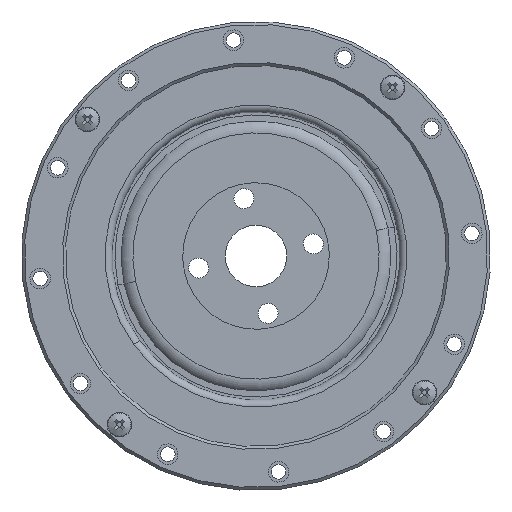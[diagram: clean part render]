
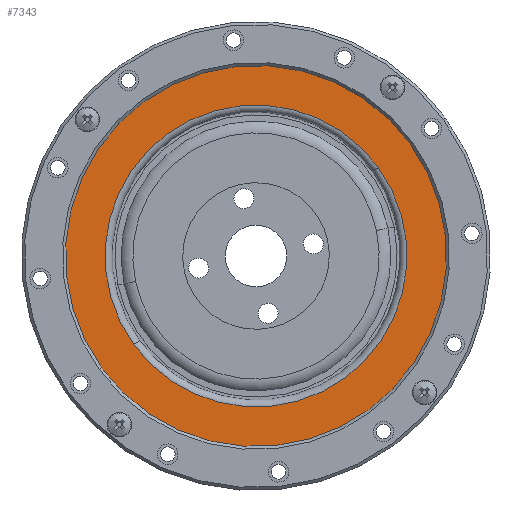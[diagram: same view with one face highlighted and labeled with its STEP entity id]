
A CAD part, left-side view. The second image highlights one B-rep face of the part: STEP entity #7343.
In plain terms, the highlighted planar face has unit normal (-1, 0, 0).
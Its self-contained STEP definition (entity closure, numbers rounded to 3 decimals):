
#11 = DIRECTION ( 'NONE',  ( 0., 0., -1. ) ) ;
#71 = DIRECTION ( 'NONE',  ( 0., 0., 1. ) ) ;
#78 = ORIENTED_EDGE ( 'NONE', *, *, #1937, .F. ) ;
#231 = CARTESIAN_POINT ( 'NONE',  ( 2.74, 0., 32.5 ) ) ;
#594 = DIRECTION ( 'NONE',  ( -1., 0., 0. ) ) ;
#908 = PLANE ( 'NONE',  #10182 ) ;
#979 = AXIS2_PLACEMENT_3D ( 'NONE', #10323, #8875, #71 ) ;
#998 = ORIENTED_EDGE ( 'NONE', *, *, #3703, .F. ) ;
#1586 = AXIS2_PLACEMENT_3D ( 'NONE', #7478, #7410, #11905 ) ;
#1875 = CIRCLE ( 'NONE', #5607, 25.736 ) ;
#1937 = EDGE_CURVE ( 'NONE', #3073, #13277, #12501, .T. ) ;
#3073 = VERTEX_POINT ( 'NONE', #231 ) ;
#3197 = FACE_OUTER_BOUND ( 'NONE', #13480, .T. ) ;
#3392 = DIRECTION ( 'NONE',  ( 1., 0., 0. ) ) ;
#3481 = CARTESIAN_POINT ( 'NONE',  ( 2.74, 0., -25.736 ) ) ;
#3523 = DIRECTION ( 'NONE',  ( 0., 0., 1. ) ) ;
#3608 = DIRECTION ( 'NONE',  ( 1., 0., 0. ) ) ;
#3703 = EDGE_CURVE ( 'NONE', #18735, #16593, #1875, .T. ) ;
#5515 = ORIENTED_EDGE ( 'NONE', *, *, #9352, .F. ) ;
#5607 = AXIS2_PLACEMENT_3D ( 'NONE', #12459, #594, #3523 ) ;
#6639 = CARTESIAN_POINT ( 'NONE',  ( 2.74, 0., 25.736 ) ) ;
#6673 = CARTESIAN_POINT ( 'NONE',  ( 2.74, 35.2, 0. ) ) ;
#6822 = CARTESIAN_POINT ( 'NONE',  ( 2.74, 0., 0. ) ) ;
#7343 = ADVANCED_FACE ( 'NONE', ( #14265, #3197 ), #908, .F. ) ;
#7410 = DIRECTION ( 'NONE',  ( 1., 0., 0. ) ) ;
#7452 = EDGE_CURVE ( 'NONE', #16593, #18735, #16116, .T. ) ;
#7478 = CARTESIAN_POINT ( 'NONE',  ( 2.74, 0., 0. ) ) ;
#8489 = DIRECTION ( 'NONE',  ( 0., 0., -1. ) ) ;
#8875 = DIRECTION ( 'NONE',  ( -1., 0., 0. ) ) ;
#9352 = EDGE_CURVE ( 'NONE', #13277, #3073, #18255, .T. ) ;
#10182 = AXIS2_PLACEMENT_3D ( 'NONE', #6673, #3392, #11 ) ;
#10323 = CARTESIAN_POINT ( 'NONE',  ( 2.74, 0., 0. ) ) ;
#10960 = ORIENTED_EDGE ( 'NONE', *, *, #7452, .F. ) ;
#11905 = DIRECTION ( 'NONE',  ( 0., 0., -1. ) ) ;
#12459 = CARTESIAN_POINT ( 'NONE',  ( 2.74, 0., 0. ) ) ;
#12468 = AXIS2_PLACEMENT_3D ( 'NONE', #6822, #3608, #8489 ) ;
#12501 = CIRCLE ( 'NONE', #12468, 32.5 ) ;
#13277 = VERTEX_POINT ( 'NONE', #14727 ) ;
#13480 = EDGE_LOOP ( 'NONE', ( #78, #5515 ) ) ;
#14265 = FACE_BOUND ( 'NONE', #16997, .T. ) ;
#14727 = CARTESIAN_POINT ( 'NONE',  ( 2.74, 0., -32.5 ) ) ;
#16116 = CIRCLE ( 'NONE', #979, 25.736 ) ;
#16593 = VERTEX_POINT ( 'NONE', #3481 ) ;
#16997 = EDGE_LOOP ( 'NONE', ( #998, #10960 ) ) ;
#18255 = CIRCLE ( 'NONE', #1586, 32.5 ) ;
#18735 = VERTEX_POINT ( 'NONE', #6639 ) ;
